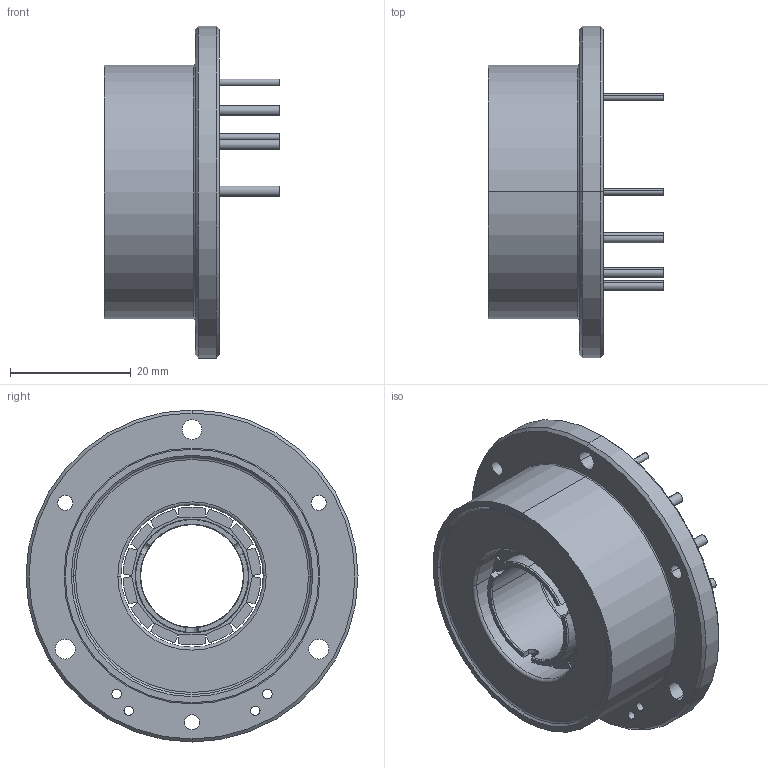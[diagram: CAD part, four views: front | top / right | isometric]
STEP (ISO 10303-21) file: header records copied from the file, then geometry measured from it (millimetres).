
FILE_DESCRIPTION((''),'2;1');
FILE_NAME('9757098_ASM','2024-01-19T10:27:16',('MMAGMUAG'),(''),'CREO PARAMETRIC BY PTC INC, 2022484','CREO PARAMETRIC BY PTC INC, 2022484','');
FILE_SCHEMA(('CONFIG_CONTROL_DESIGN','SHAPE_APPEARANCE_LAYERS_GROUPS'));
Length unit declared in the file: millimetre
Products named in the file (12): 9747956; 9434376_ASM; 9749036_ASM; 9751041_ASM; 9753198; 9753188_ASM; 9788876; 9740104; 9797498; 9844999_ASM; 10564710_AF0; 9757098_ASM
Assembly tree (23 placements, depth 5):
  9757098_ASM
    9753188_ASM
      9751041_ASM
        9747956
        9749036_ASM
          9434376_ASM
      9753198
    9844999_ASM
      9788876
      9740104  x7
      9797498  x7
    10564710_AF0
Bounding box: 29 x 55 x 55 mm (x, y, z)
Volume: 22442.4 mm3; surface area: 16700 mm2
Topology: 22 solids, 22 shells, 303 faces, 702 edges, 448 vertices
Faces by surface type: plane 148, cylinder 78, torus 44, cone 21, bspline 12
Entity records: 16029 total; most frequent: CARTESIAN_POINT 8403, ORIENTED_EDGE 1116, DIRECTION 1090, PRESENTATION_STYLE_ASSIGNMENT 598, STYLED_ITEM 588, CURVE_STYLE 558, EDGE_CURVE 558, AXIS2_PLACEMENT_3D 447
